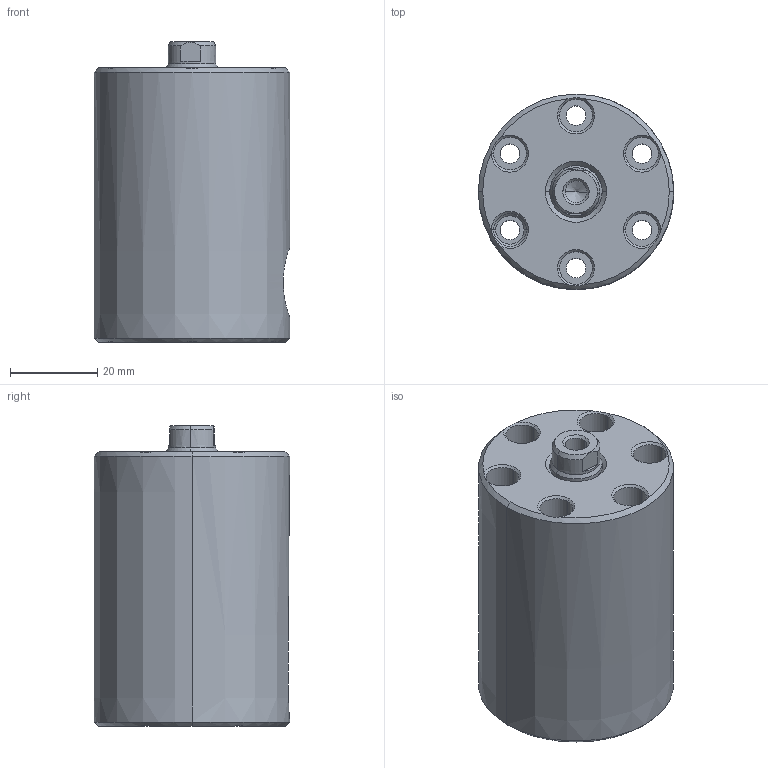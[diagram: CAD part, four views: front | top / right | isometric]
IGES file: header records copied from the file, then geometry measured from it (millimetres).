
Start section: SolidWorks IGES file using analytic representation for surfaces
Global section: file name: F:\COMPECT CYLINDER-STD\CO2C-4525.IGS; native system: SolidWorks 2019; preprocessor: SolidWorks 2019; author: ADMIN; date: 200708.120122; units: millimetre
Bounding box: 44.8 x 44.8 x 69 mm (x, y, z)
Volume: 87424.3 mm3; surface area: 22761.4 mm2
Topology: 2 solids, 2 shells, 127 faces, 309 edges, 185 vertices
Faces by surface type: revolution 104, plane 23
